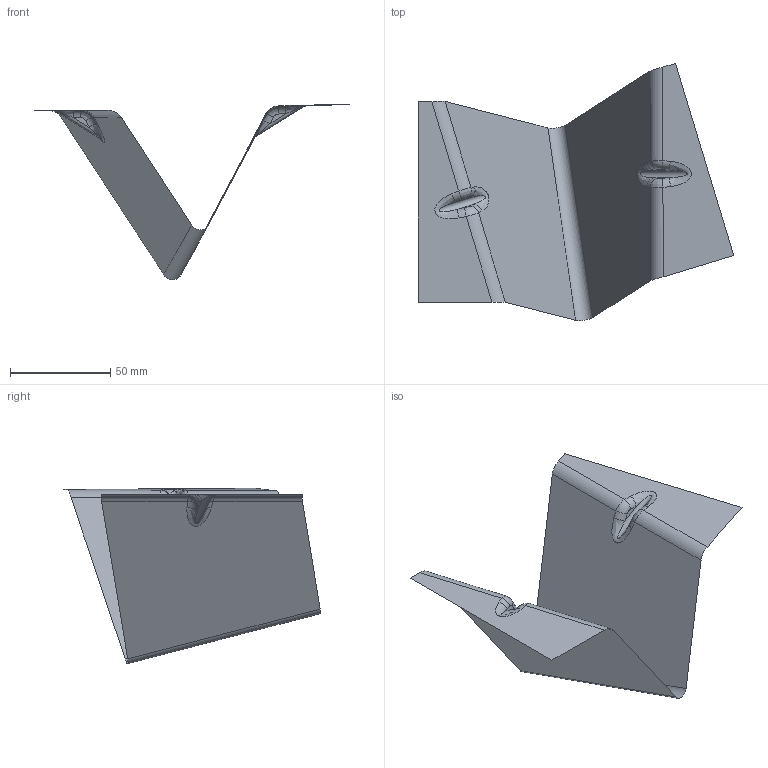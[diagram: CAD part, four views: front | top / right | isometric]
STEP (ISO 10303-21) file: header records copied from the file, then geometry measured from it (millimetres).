
FILE_DESCRIPTION(('CATIA V5 STEP Exchange'),'2;1');
FILE_NAME('C:\_Andres\UNIVERSIDAD\IQS\ASIGNATURAS\DAO\EXF\EXF-16172c\2inicio\Homs_Menis_Ej03_v14.stp','2017-03-05T19:32:16+00:00',('none'),('none'),'CATIA Version 5-6 Release 2014 SP1 HF18','CATIA V5 STEP AP203','none');
FILE_SCHEMA(('CONFIG_CONTROL_DESIGN'));
Length unit declared in the file: millimetre
Products named in the file (1): Homs_Menis_Ej03_v14
Bounding box: 157.15 x 128.01 x 87.32 mm (x, y, z)
Surface area: 23098.9 mm2 (no closed solid volume)
Topology: 0 solids, 1 shells, 31 faces, 78 edges, 48 vertices
Faces by surface type: cylinder 15, plane 8, bspline 8
Entity records: 2449 total; most frequent: CARTESIAN_POINT 1776, ORIENTED_EDGE 140, DIRECTION 90, EDGE_CURVE 78, VERTEX_POINT 48, VECTOR 40, LINE 40, ADVANCED_FACE 31
